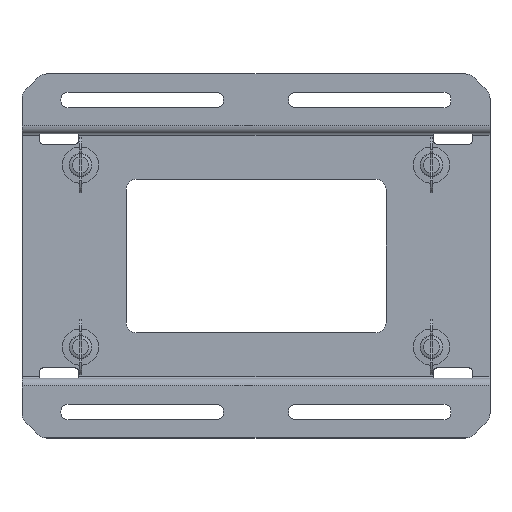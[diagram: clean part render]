
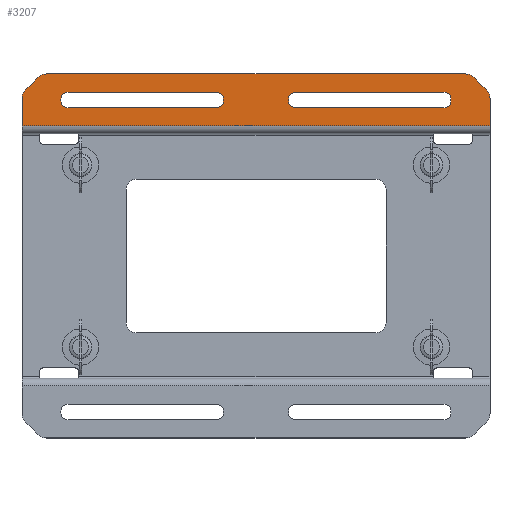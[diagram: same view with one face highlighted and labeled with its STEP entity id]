
A CAD part, top view. The second image highlights one B-rep face of the part: STEP entity #3207.
In plain terms, the highlighted planar face has unit normal (0, 0, 1).
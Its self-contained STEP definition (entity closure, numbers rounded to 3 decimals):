
#146=CIRCLE('',#3413,10.);
#149=CIRCLE('',#3418,10.);
#151=CIRCLE('',#3422,5.5);
#153=CIRCLE('',#3426,5.5);
#155=CIRCLE('',#3430,5.5);
#157=CIRCLE('',#3434,5.5);
#159=CIRCLE('',#3440,10.);
#164=CIRCLE('',#3448,10.);
#166=CIRCLE('',#3451,5.5);
#167=CIRCLE('',#3452,5.5);
#168=CIRCLE('',#3453,5.5);
#169=CIRCLE('',#3454,5.5);
#498=ORIENTED_EDGE('',*,*,#1426,.F.);
#499=ORIENTED_EDGE('',*,*,#1427,.T.);
#500=ORIENTED_EDGE('',*,*,#1389,.F.);
#501=ORIENTED_EDGE('',*,*,#1395,.T.);
#502=ORIENTED_EDGE('',*,*,#1398,.F.);
#503=ORIENTED_EDGE('',*,*,#1400,.T.);
#504=ORIENTED_EDGE('',*,*,#1354,.F.);
#505=ORIENTED_EDGE('',*,*,#1428,.T.);
#506=ORIENTED_EDGE('',*,*,#1401,.F.);
#507=ORIENTED_EDGE('',*,*,#1382,.T.);
#508=ORIENTED_EDGE('',*,*,#1384,.F.);
#509=ORIENTED_EDGE('',*,*,#1388,.T.);
#510=ORIENTED_EDGE('',*,*,#1350,.F.);
#511=ORIENTED_EDGE('',*,*,#1429,.T.);
#512=ORIENTED_EDGE('',*,*,#1430,.F.);
#513=ORIENTED_EDGE('',*,*,#1431,.T.);
#514=ORIENTED_EDGE('',*,*,#1379,.T.);
#515=ORIENTED_EDGE('',*,*,#1423,.T.);
#516=ORIENTED_EDGE('',*,*,#1432,.T.);
#517=ORIENTED_EDGE('',*,*,#1433,.T.);
#518=ORIENTED_EDGE('',*,*,#1434,.F.);
#519=ORIENTED_EDGE('',*,*,#1413,.T.);
#520=ORIENTED_EDGE('',*,*,#1364,.T.);
#521=ORIENTED_EDGE('',*,*,#1368,.T.);
#522=ORIENTED_EDGE('',*,*,#1373,.F.);
#523=ORIENTED_EDGE('',*,*,#1376,.T.);
#1350=EDGE_CURVE('',#1821,#1822,#2142,.T.);
#1354=EDGE_CURVE('',#1825,#1826,#2146,.T.);
#1364=EDGE_CURVE('',#1835,#1836,#2156,.F.);
#1368=EDGE_CURVE('',#1836,#1839,#146,.T.);
#1373=EDGE_CURVE('',#1842,#1839,#2163,.T.);
#1376=EDGE_CURVE('',#1842,#1844,#149,.T.);
#1379=EDGE_CURVE('',#1844,#1846,#2167,.T.);
#1382=EDGE_CURVE('',#1850,#1849,#151,.F.);
#1384=EDGE_CURVE('',#1851,#1849,#2170,.T.);
#1388=EDGE_CURVE('',#1851,#1822,#153,.F.);
#1389=EDGE_CURVE('',#1853,#1854,#2173,.T.);
#1395=EDGE_CURVE('',#1853,#1858,#155,.F.);
#1398=EDGE_CURVE('',#1860,#1858,#2180,.T.);
#1400=EDGE_CURVE('',#1860,#1826,#157,.F.);
#1401=EDGE_CURVE('',#1850,#1861,#2181,.T.);
#1413=EDGE_CURVE('',#1872,#1835,#159,.T.);
#1423=EDGE_CURVE('',#1846,#1881,#164,.T.);
#1426=EDGE_CURVE('',#1883,#1884,#2198,.T.);
#1427=EDGE_CURVE('',#1883,#1854,#166,.F.);
#1428=EDGE_CURVE('',#1825,#1884,#167,.F.);
#1429=EDGE_CURVE('',#1821,#1885,#168,.F.);
#1430=EDGE_CURVE('',#1886,#1885,#2199,.T.);
#1431=EDGE_CURVE('',#1886,#1861,#169,.F.);
#1432=EDGE_CURVE('',#1881,#1887,#2200,.F.);
#1433=EDGE_CURVE('',#1887,#1888,#2201,.T.);
#1434=EDGE_CURVE('',#1872,#1888,#2202,.F.);
#1821=VERTEX_POINT('',#4810);
#1822=VERTEX_POINT('',#4812);
#1825=VERTEX_POINT('',#4819);
#1826=VERTEX_POINT('',#4821);
#1835=VERTEX_POINT('',#4843);
#1836=VERTEX_POINT('',#4844);
#1839=VERTEX_POINT('',#4852);
#1842=VERTEX_POINT('',#4860);
#1844=VERTEX_POINT('',#4866);
#1846=VERTEX_POINT('',#4872);
#1849=VERTEX_POINT('',#4879);
#1850=VERTEX_POINT('',#4881);
#1851=VERTEX_POINT('',#4885);
#1853=VERTEX_POINT('',#4894);
#1854=VERTEX_POINT('',#4895);
#1858=VERTEX_POINT('',#4905);
#1860=VERTEX_POINT('',#4911);
#1861=VERTEX_POINT('',#4918);
#1872=VERTEX_POINT('',#4944);
#1881=VERTEX_POINT('',#4966);
#1883=VERTEX_POINT('',#4972);
#1884=VERTEX_POINT('',#4973);
#1885=VERTEX_POINT('',#4977);
#1886=VERTEX_POINT('',#4979);
#1887=VERTEX_POINT('',#4982);
#1888=VERTEX_POINT('',#4984);
#2142=LINE('',#4811,#2418);
#2146=LINE('',#4820,#2422);
#2156=LINE('',#4842,#2432);
#2163=LINE('',#4861,#2439);
#2167=LINE('',#4873,#2443);
#2170=LINE('',#4884,#2446);
#2173=LINE('',#4893,#2449);
#2180=LINE('',#4912,#2456);
#2181=LINE('',#4917,#2457);
#2198=LINE('',#4971,#2474);
#2199=LINE('',#4978,#2475);
#2200=LINE('',#4981,#2476);
#2201=LINE('',#4983,#2477);
#2202=LINE('',#4985,#2478);
#2418=VECTOR('',#3786,1000.);
#2422=VECTOR('',#3792,1000.);
#2432=VECTOR('',#3808,1000.);
#2439=VECTOR('',#3823,1000.);
#2443=VECTOR('',#3835,1000.);
#2446=VECTOR('',#3846,1000.);
#2449=VECTOR('',#3857,1000.);
#2456=VECTOR('',#3872,1000.);
#2457=VECTOR('',#3881,1000.);
#2474=VECTOR('',#3928,1000.);
#2475=VECTOR('',#3935,1000.);
#2476=VECTOR('',#3938,1000.);
#2477=VECTOR('',#3939,1000.);
#2478=VECTOR('',#3940,1000.);
#2715=EDGE_LOOP('',(#498,#499,#500,#501,#502,#503,#504,#505));
#2716=EDGE_LOOP('',(#506,#507,#508,#509,#510,#511,#512,#513));
#2717=EDGE_LOOP('',(#514,#515,#516,#517,#518,#519,#520,#521,#522,#523));
#2923=FACE_BOUND('',#2715,.T.);
#2924=FACE_BOUND('',#2716,.T.);
#2925=FACE_BOUND('',#2717,.T.);
#3121=PLANE('',#3450);
#3207=ADVANCED_FACE('',(#2923,#2924,#2925),#3121,.T.);
#3413=AXIS2_PLACEMENT_3D('',#4851,#3814,#3815);
#3418=AXIS2_PLACEMENT_3D('',#4867,#3829,#3830);
#3422=AXIS2_PLACEMENT_3D('',#4880,#3841,#3842);
#3426=AXIS2_PLACEMENT_3D('',#4891,#3853,#3854);
#3430=AXIS2_PLACEMENT_3D('',#4906,#3866,#3867);
#3434=AXIS2_PLACEMENT_3D('',#4915,#3877,#3878);
#3440=AXIS2_PLACEMENT_3D('',#4943,#3900,#3901);
#3448=AXIS2_PLACEMENT_3D('',#4965,#3921,#3922);
#3450=AXIS2_PLACEMENT_3D('',#4970,#3926,#3927);
#3451=AXIS2_PLACEMENT_3D('',#4974,#3929,#3930);
#3452=AXIS2_PLACEMENT_3D('',#4975,#3931,#3932);
#3453=AXIS2_PLACEMENT_3D('',#4976,#3933,#3934);
#3454=AXIS2_PLACEMENT_3D('',#4980,#3936,#3937);
#3786=DIRECTION('',(-1.,0.,0.));
#3792=DIRECTION('',(1.,0.,0.));
#3808=DIRECTION('',(0.707,-0.707,0.));
#3814=DIRECTION('',(0.,0.,1.));
#3815=DIRECTION('',(1.,0.,0.));
#3823=DIRECTION('',(1.,0.,0.));
#3829=DIRECTION('',(0.,0.,1.));
#3830=DIRECTION('',(1.,0.,0.));
#3835=DIRECTION('',(-0.707,-0.707,0.));
#3841=DIRECTION('',(0.,0.,1.));
#3842=DIRECTION('',(1.,0.,0.));
#3846=DIRECTION('',(0.,-1.,0.));
#3853=DIRECTION('',(0.,0.,1.));
#3854=DIRECTION('',(1.,0.,0.));
#3857=DIRECTION('',(-1.,0.,0.));
#3866=DIRECTION('',(0.,0.,1.));
#3867=DIRECTION('',(1.,0.,0.));
#3872=DIRECTION('',(0.,1.,0.));
#3877=DIRECTION('',(0.,0.,1.));
#3878=DIRECTION('',(1.,0.,0.));
#3881=DIRECTION('',(1.,0.,0.));
#3900=DIRECTION('',(0.,0.,1.));
#3901=DIRECTION('',(1.,0.,0.));
#3921=DIRECTION('',(0.,0.,1.));
#3922=DIRECTION('',(1.,0.,0.));
#3926=DIRECTION('',(0.,0.,1.));
#3927=DIRECTION('',(1.,0.,0.));
#3928=DIRECTION('',(0.,-1.,0.));
#3929=DIRECTION('',(0.,0.,1.));
#3930=DIRECTION('',(1.,0.,0.));
#3931=DIRECTION('',(0.,0.,1.));
#3932=DIRECTION('',(1.,0.,0.));
#3933=DIRECTION('',(0.,0.,1.));
#3934=DIRECTION('',(1.,0.,0.));
#3935=DIRECTION('',(0.,1.,0.));
#3936=DIRECTION('',(0.,0.,1.));
#3937=DIRECTION('',(1.,0.,0.));
#3938=DIRECTION('',(0.,1.,0.));
#3939=DIRECTION('',(1.,0.,0.));
#3940=DIRECTION('',(0.,1.,0.));
#4810=CARTESIAN_POINT('',(-30.5,126.1,29.));
#4811=CARTESIAN_POINT('',(150.,126.1,29.));
#4812=CARTESIAN_POINT('',(-144.5,126.1,29.));
#4819=CARTESIAN_POINT('',(30.5,113.9,29.));
#4820=CARTESIAN_POINT('',(-150.,113.9,29.));
#4821=CARTESIAN_POINT('',(144.5,113.9,29.));
#4842=CARTESIAN_POINT('',(13.,292.,29.));
#4843=CARTESIAN_POINT('',(177.071,127.929,29.));
#4844=CARTESIAN_POINT('',(167.929,137.071,29.));
#4851=CARTESIAN_POINT('',(160.858,130.,29.));
#4852=CARTESIAN_POINT('',(160.858,140.,29.));
#4860=CARTESIAN_POINT('',(-160.858,140.,29.));
#4861=CARTESIAN_POINT('',(-180.,140.,29.));
#4866=CARTESIAN_POINT('',(-167.929,137.071,29.));
#4867=CARTESIAN_POINT('',(-160.858,130.,29.));
#4872=CARTESIAN_POINT('',(-177.071,127.929,29.));
#4873=CARTESIAN_POINT('',(-193.,112.,29.));
#4879=CARTESIAN_POINT('',(-150.,119.4,29.));
#4880=CARTESIAN_POINT('',(-144.5,119.4,29.));
#4881=CARTESIAN_POINT('',(-144.5,113.9,29.));
#4884=CARTESIAN_POINT('',(-150.,126.1,29.));
#4885=CARTESIAN_POINT('',(-150.,120.6,29.));
#4891=CARTESIAN_POINT('',(-144.5,120.6,29.));
#4893=CARTESIAN_POINT('',(150.,126.1,29.));
#4894=CARTESIAN_POINT('',(144.5,126.1,29.));
#4895=CARTESIAN_POINT('',(30.5,126.1,29.));
#4905=CARTESIAN_POINT('',(150.,120.6,29.));
#4906=CARTESIAN_POINT('',(144.5,120.6,29.));
#4911=CARTESIAN_POINT('',(150.,119.4,29.));
#4912=CARTESIAN_POINT('',(150.,113.9,29.));
#4915=CARTESIAN_POINT('',(144.5,119.4,29.));
#4917=CARTESIAN_POINT('',(-150.,113.9,29.));
#4918=CARTESIAN_POINT('',(-30.5,113.9,29.));
#4943=CARTESIAN_POINT('',(170.,120.858,29.));
#4944=CARTESIAN_POINT('',(180.,120.858,29.));
#4965=CARTESIAN_POINT('',(-170.,120.858,29.));
#4966=CARTESIAN_POINT('',(-180.,120.858,29.));
#4970=CARTESIAN_POINT('',(-180.,99.,29.));
#4971=CARTESIAN_POINT('',(25.,126.1,29.));
#4972=CARTESIAN_POINT('',(25.,120.6,29.));
#4973=CARTESIAN_POINT('',(25.,119.4,29.));
#4974=CARTESIAN_POINT('',(30.5,120.6,29.));
#4975=CARTESIAN_POINT('',(30.5,119.4,29.));
#4976=CARTESIAN_POINT('',(-30.5,120.6,29.));
#4977=CARTESIAN_POINT('',(-25.,120.6,29.));
#4978=CARTESIAN_POINT('',(-25.,113.9,29.));
#4979=CARTESIAN_POINT('',(-25.,119.4,29.));
#4980=CARTESIAN_POINT('',(-30.5,119.4,29.));
#4981=CARTESIAN_POINT('',(-180.,99.,29.));
#4982=CARTESIAN_POINT('',(-180.,100.,29.));
#4983=CARTESIAN_POINT('',(-180.,100.,29.));
#4984=CARTESIAN_POINT('',(180.,100.,29.));
#4985=CARTESIAN_POINT('',(180.,99.,29.));
